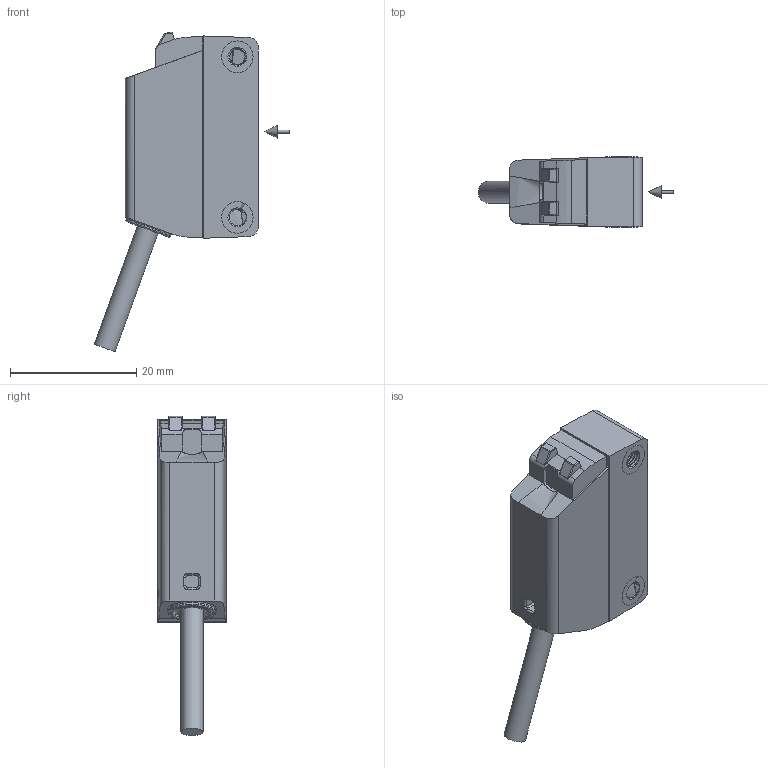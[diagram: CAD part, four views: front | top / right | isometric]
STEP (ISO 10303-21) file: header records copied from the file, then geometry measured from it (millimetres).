
FILE_DESCRIPTION(/* description */ ('Unknown'),/* implementation_level */ '2;1');
FILE_NAME(/* name */ 'O330.EP-xxxxx.72ZV_H006_with_Axis',/* time_stamp */ '2023-05-04T13:09:28+02:00',/* author */ ('Unknown'),/* organization */ ('Baumer'),/* preprocessor_version */ 'ST-DEVELOPER v16.7',/* originating_system */ 'Solid Edge',/* authorisation */ 'Unknown');
FILE_SCHEMA (('AUTOMOTIVE_DESIGN {1 0 10303 214 3 1 1}'));
Length unit declared in the file: millimetre
Products named in the file (3): O330.EP-xxxxx.72ZV_H006_with_Axis; O330.xP-xxxxx.72ZV_H006; O330.EP_Axis
Assembly tree (2 placements, depth 2):
  O330.EP-xxxxx.72ZV_H006_with_Axis
    O330.xP-xxxxx.72ZV_H006
    O330.EP_Axis
Bounding box: 30.94 x 11.03 x 50.54 mm (x, y, z)
Volume: 6571 mm3; surface area: 3376.4 mm2
Topology: 2 solids, 2 shells, 253 faces, 660 edges, 407 vertices
Faces by surface type: plane 118, cylinder 70, cone 28, bspline 19, sphere 9, torus 9
Full cylindrical faces by diameter (mm): 0.5 x1, 3.5 x1, 5 x4, 7.468 x1
Entity records: 15048 total; most frequent: CARTESIAN_POINT 6994, ORIENTED_EDGE 1244, DIRECTION 1215, EDGE_CURVE 622, AXIS2_PLACEMENT_3D 443, VERTEX_POINT 399, LINE 329, VECTOR 329
